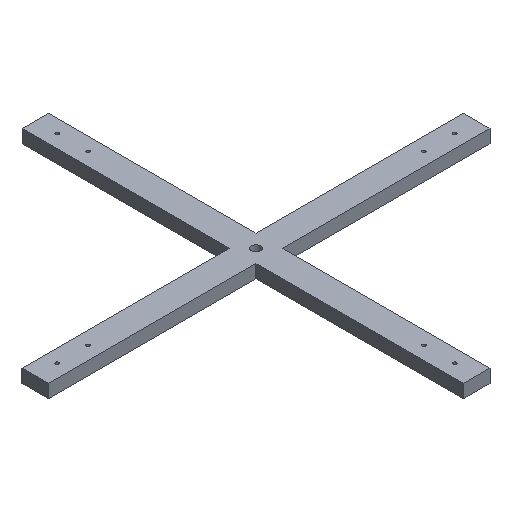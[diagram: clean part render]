
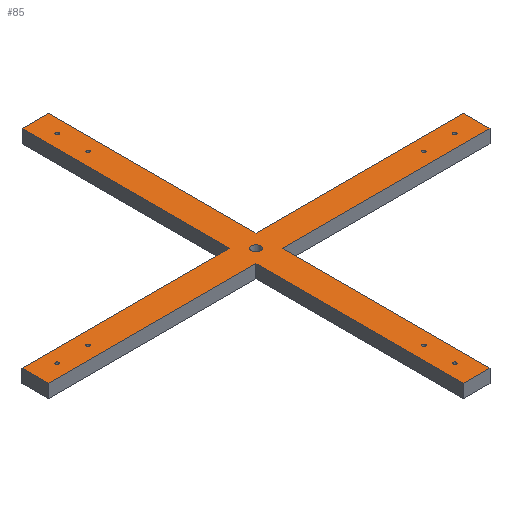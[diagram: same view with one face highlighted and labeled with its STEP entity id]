
A CAD part, isometric view. The second image highlights one B-rep face of the part: STEP entity #85.
In plain terms, the highlighted planar face has unit normal (0, 0, 1).
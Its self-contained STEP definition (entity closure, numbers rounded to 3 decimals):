
#85 = ADVANCED_FACE( '', ( #184, #185, #186, #187, #188, #189, #190, #191, #192, #193 ), #194, .T. );
#184 = FACE_BOUND( '', #287, .T. );
#185 = FACE_BOUND( '', #288, .T. );
#186 = FACE_BOUND( '', #289, .T. );
#187 = FACE_BOUND( '', #290, .T. );
#188 = FACE_BOUND( '', #291, .T. );
#189 = FACE_BOUND( '', #292, .T. );
#190 = FACE_BOUND( '', #293, .T. );
#191 = FACE_BOUND( '', #294, .T. );
#192 = FACE_BOUND( '', #295, .T. );
#193 = FACE_OUTER_BOUND( '', #296, .T. );
#194 = PLANE( '', #297 );
#287 = EDGE_LOOP( '', ( #463 ) );
#288 = EDGE_LOOP( '', ( #464 ) );
#289 = EDGE_LOOP( '', ( #465 ) );
#290 = EDGE_LOOP( '', ( #466 ) );
#291 = EDGE_LOOP( '', ( #467 ) );
#292 = EDGE_LOOP( '', ( #468 ) );
#293 = EDGE_LOOP( '', ( #469 ) );
#294 = EDGE_LOOP( '', ( #470 ) );
#295 = EDGE_LOOP( '', ( #471 ) );
#296 = EDGE_LOOP( '', ( #472, #473, #474, #475, #476, #477, #478, #479, #480, #481, #482, #483 ) );
#297 = AXIS2_PLACEMENT_3D( '', #484, #485, #486 );
#463 = ORIENTED_EDGE( '', *, *, #539, .F. );
#464 = ORIENTED_EDGE( '', *, *, #574, .F. );
#465 = ORIENTED_EDGE( '', *, *, #578, .F. );
#466 = ORIENTED_EDGE( '', *, *, #518, .F. );
#467 = ORIENTED_EDGE( '', *, *, #580, .F. );
#468 = ORIENTED_EDGE( '', *, *, #576, .F. );
#469 = ORIENTED_EDGE( '', *, *, #549, .F. );
#470 = ORIENTED_EDGE( '', *, *, #546, .F. );
#471 = ORIENTED_EDGE( '', *, *, #510, .F. );
#472 = ORIENTED_EDGE( '', *, *, #558, .T. );
#473 = ORIENTED_EDGE( '', *, *, #581, .T. );
#474 = ORIENTED_EDGE( '', *, *, #561, .T. );
#475 = ORIENTED_EDGE( '', *, *, #523, .T. );
#476 = ORIENTED_EDGE( '', *, *, #528, .T. );
#477 = ORIENTED_EDGE( '', *, *, #582, .T. );
#478 = ORIENTED_EDGE( '', *, *, #515, .T. );
#479 = ORIENTED_EDGE( '', *, *, #565, .T. );
#480 = ORIENTED_EDGE( '', *, *, #536, .T. );
#481 = ORIENTED_EDGE( '', *, *, #532, .T. );
#482 = ORIENTED_EDGE( '', *, *, #544, .T. );
#483 = ORIENTED_EDGE( '', *, *, #554, .T. );
#484 = CARTESIAN_POINT( '', ( 0., 0., 30. ) );
#485 = DIRECTION( '', ( 0., 0., 1. ) );
#486 = DIRECTION( '', ( 1., 0., 0. ) );
#510 = EDGE_CURVE( '', #587, #587, #588, .T. );
#515 = EDGE_CURVE( '', #597, #595, #598, .T. );
#518 = EDGE_CURVE( '', #601, #601, #602, .T. );
#523 = EDGE_CURVE( '', #611, #609, #612, .T. );
#528 = EDGE_CURVE( '', #609, #617, #619, .T. );
#532 = EDGE_CURVE( '', #626, #624, #627, .T. );
#536 = EDGE_CURVE( '', #632, #626, #633, .T. );
#539 = EDGE_CURVE( '', #636, #636, #637, .T. );
#544 = EDGE_CURVE( '', #624, #643, #645, .T. );
#546 = EDGE_CURVE( '', #647, #647, #648, .T. );
#549 = EDGE_CURVE( '', #652, #652, #653, .T. );
#554 = EDGE_CURVE( '', #643, #659, #661, .T. );
#558 = EDGE_CURVE( '', #659, #665, #667, .T. );
#561 = EDGE_CURVE( '', #671, #611, #672, .T. );
#565 = EDGE_CURVE( '', #595, #632, #676, .T. );
#574 = EDGE_CURVE( '', #689, #689, #690, .T. );
#576 = EDGE_CURVE( '', #692, #692, #693, .T. );
#578 = EDGE_CURVE( '', #695, #695, #696, .T. );
#580 = EDGE_CURVE( '', #698, #698, #699, .T. );
#581 = EDGE_CURVE( '', #665, #671, #700, .T. );
#582 = EDGE_CURVE( '', #617, #597, #701, .T. );
#587 = VERTEX_POINT( '', #706 );
#588 = CIRCLE( '', #707, 3.5 );
#595 = VERTEX_POINT( '', #715 );
#597 = VERTEX_POINT( '', #718 );
#598 = LINE( '', #719, #720 );
#601 = VERTEX_POINT( '', #724 );
#602 = CIRCLE( '', #725, 3.5 );
#609 = VERTEX_POINT( '', #733 );
#611 = VERTEX_POINT( '', #736 );
#612 = LINE( '', #737, #738 );
#617 = VERTEX_POINT( '', #745 );
#619 = LINE( '', #748, #749 );
#624 = VERTEX_POINT( '', #755 );
#626 = VERTEX_POINT( '', #758 );
#627 = LINE( '', #759, #760 );
#632 = VERTEX_POINT( '', #767 );
#633 = LINE( '', #768, #769 );
#636 = VERTEX_POINT( '', #773 );
#637 = CIRCLE( '', #774, 3.5 );
#643 = VERTEX_POINT( '', #781 );
#645 = LINE( '', #784, #785 );
#647 = VERTEX_POINT( '', #787 );
#648 = CIRCLE( '', #788, 3.5 );
#652 = VERTEX_POINT( '', #792 );
#653 = CIRCLE( '', #793, 3.5 );
#659 = VERTEX_POINT( '', #800 );
#661 = LINE( '', #803, #804 );
#665 = VERTEX_POINT( '', #809 );
#667 = LINE( '', #812, #813 );
#671 = VERTEX_POINT( '', #818 );
#672 = LINE( '', #819, #820 );
#676 = LINE( '', #826, #827 );
#689 = VERTEX_POINT( '', #842 );
#690 = CIRCLE( '', #843, 3.5 );
#692 = VERTEX_POINT( '', #845 );
#693 = CIRCLE( '', #846, 3.5 );
#695 = VERTEX_POINT( '', #848 );
#696 = CIRCLE( '', #849, 10. );
#698 = VERTEX_POINT( '', #851 );
#699 = CIRCLE( '', #852, 3.5 );
#700 = LINE( '', #853, #854 );
#701 = LINE( '', #855, #856 );
#706 = CARTESIAN_POINT( '', ( 453.1, 0., 30. ) );
#707 = AXIS2_PLACEMENT_3D( '', #860, #861, #862 );
#715 = CARTESIAN_POINT( '', ( 499., 30., 30. ) );
#718 = CARTESIAN_POINT( '', ( 499., -30., 30. ) );
#719 = CARTESIAN_POINT( '', ( 499., -30., 30. ) );
#720 = VECTOR( '', #868, 1000. );
#724 = CARTESIAN_POINT( '', ( 3.5, 449.6, 30. ) );
#725 = AXIS2_PLACEMENT_3D( '', #870, #871, #872 );
#733 = CARTESIAN_POINT( '', ( 30., -499., 30. ) );
#736 = CARTESIAN_POINT( '', ( -30., -499., 30. ) );
#737 = CARTESIAN_POINT( '', ( -30., -499., 30. ) );
#738 = VECTOR( '', #878, 1000. );
#745 = CARTESIAN_POINT( '', ( 30., -30., 30. ) );
#748 = CARTESIAN_POINT( '', ( 30., -499., 30. ) );
#749 = VECTOR( '', #882, 1000. );
#755 = CARTESIAN_POINT( '', ( -30., 499., 30. ) );
#758 = CARTESIAN_POINT( '', ( 30., 499., 30. ) );
#759 = CARTESIAN_POINT( '', ( 30., 499., 30. ) );
#760 = VECTOR( '', #885, 1000. );
#767 = CARTESIAN_POINT( '', ( 30., 30., 30. ) );
#768 = CARTESIAN_POINT( '', ( 30., 30., 30. ) );
#769 = VECTOR( '', #888, 1000. );
#773 = CARTESIAN_POINT( '', ( -446.1, 0., 30. ) );
#774 = AXIS2_PLACEMENT_3D( '', #890, #891, #892 );
#781 = CARTESIAN_POINT( '', ( -30., 30., 30. ) );
#784 = CARTESIAN_POINT( '', ( -30., 499., 30. ) );
#785 = VECTOR( '', #898, 1000. );
#787 = CARTESIAN_POINT( '', ( 383.1, 0., 30. ) );
#788 = AXIS2_PLACEMENT_3D( '', #899, #900, #901 );
#792 = CARTESIAN_POINT( '', ( 3.5, 379.6, 30. ) );
#793 = AXIS2_PLACEMENT_3D( '', #905, #906, #907 );
#800 = CARTESIAN_POINT( '', ( -499., 30., 30. ) );
#803 = CARTESIAN_POINT( '', ( -30., 30., 30. ) );
#804 = VECTOR( '', #913, 1000. );
#809 = CARTESIAN_POINT( '', ( -499., -30., 30. ) );
#812 = CARTESIAN_POINT( '', ( -499., 30., 30. ) );
#813 = VECTOR( '', #916, 1000. );
#818 = CARTESIAN_POINT( '', ( -30., -30., 30. ) );
#819 = CARTESIAN_POINT( '', ( -30., -30., 30. ) );
#820 = VECTOR( '', #918, 1000. );
#826 = CARTESIAN_POINT( '', ( 499., 30., 30. ) );
#827 = VECTOR( '', #921, 1000. );
#842 = CARTESIAN_POINT( '', ( -376.1, 0., 30. ) );
#843 = AXIS2_PLACEMENT_3D( '', #936, #937, #938 );
#845 = CARTESIAN_POINT( '', ( 3.5, -379.6, 30. ) );
#846 = AXIS2_PLACEMENT_3D( '', #939, #940, #941 );
#848 = CARTESIAN_POINT( '', ( 10., 0., 30. ) );
#849 = AXIS2_PLACEMENT_3D( '', #942, #943, #944 );
#851 = CARTESIAN_POINT( '', ( 3.5, -449.6, 30. ) );
#852 = AXIS2_PLACEMENT_3D( '', #945, #946, #947 );
#853 = CARTESIAN_POINT( '', ( -499., -30., 30. ) );
#854 = VECTOR( '', #948, 1000. );
#855 = CARTESIAN_POINT( '', ( 30., -30., 30. ) );
#856 = VECTOR( '', #949, 1000. );
#860 = CARTESIAN_POINT( '', ( 449.6, 0., 30. ) );
#861 = DIRECTION( '', ( 0., 0., 1. ) );
#862 = DIRECTION( '', ( 1., 0., 0. ) );
#868 = DIRECTION( '', ( 0., 1., 0. ) );
#870 = CARTESIAN_POINT( '', ( 0., 449.6, 30. ) );
#871 = DIRECTION( '', ( 0., 0., 1. ) );
#872 = DIRECTION( '', ( 1., 0., 0. ) );
#878 = DIRECTION( '', ( 1., 0., 0. ) );
#882 = DIRECTION( '', ( 0., 1., 0. ) );
#885 = DIRECTION( '', ( -1., 0., 0. ) );
#888 = DIRECTION( '', ( 0., 1., 0. ) );
#890 = CARTESIAN_POINT( '', ( -449.6, 0., 30. ) );
#891 = DIRECTION( '', ( 0., 0., 1. ) );
#892 = DIRECTION( '', ( 1., 0., 0. ) );
#898 = DIRECTION( '', ( 0., -1., 0. ) );
#899 = CARTESIAN_POINT( '', ( 379.6, 0., 30. ) );
#900 = DIRECTION( '', ( 0., 0., 1. ) );
#901 = DIRECTION( '', ( 1., 0., 0. ) );
#905 = CARTESIAN_POINT( '', ( 0., 379.6, 30. ) );
#906 = DIRECTION( '', ( 0., 0., 1. ) );
#907 = DIRECTION( '', ( 1., 0., 0. ) );
#913 = DIRECTION( '', ( -1., 0., 0. ) );
#916 = DIRECTION( '', ( 0., -1., 0. ) );
#918 = DIRECTION( '', ( 0., -1., 0. ) );
#921 = DIRECTION( '', ( -1., 0., 0. ) );
#936 = CARTESIAN_POINT( '', ( -379.6, 0., 30. ) );
#937 = DIRECTION( '', ( 0., 0., 1. ) );
#938 = DIRECTION( '', ( 1., 0., 0. ) );
#939 = CARTESIAN_POINT( '', ( 0., -379.6, 30. ) );
#940 = DIRECTION( '', ( 0., 0., 1. ) );
#941 = DIRECTION( '', ( 1., 0., 0. ) );
#942 = CARTESIAN_POINT( '', ( 0., 0., 30. ) );
#943 = DIRECTION( '', ( 0., 0., 1. ) );
#944 = DIRECTION( '', ( 1., 0., 0. ) );
#945 = CARTESIAN_POINT( '', ( 0., -449.6, 30. ) );
#946 = DIRECTION( '', ( 0., 0., 1. ) );
#947 = DIRECTION( '', ( 1., 0., 0. ) );
#948 = DIRECTION( '', ( 1., 0., 0. ) );
#949 = DIRECTION( '', ( 1., 0., 0. ) );
